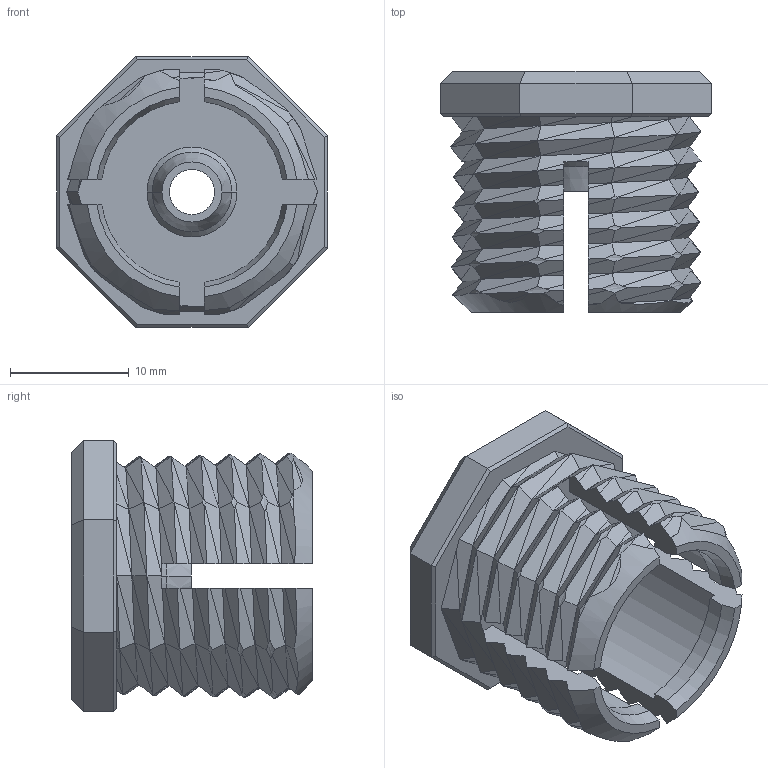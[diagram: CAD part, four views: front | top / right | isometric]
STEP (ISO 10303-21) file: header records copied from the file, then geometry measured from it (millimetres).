
FILE_DESCRIPTION(('FreeCAD Model'),'2;1');
FILE_NAME('D:/2015 new/openBCI/M3 Cad/M3K parts/M3K_Octabolt.STEP', '2015-11-05T13:37:17',('FreeCAD'),('FreeCAD'), 'Open CASCADE STEP processor 6.3','FreeCAD','Unknown');
FILE_SCHEMA(('AUTOMOTIVE_DESIGN_CC2 { 1 2 10303 214 -1 1 5 4 }'));
Length unit declared in the file: millimetre
Products named in the file (1): M3_Adjustment_Bolt7c
Bounding box: 22.86 x 20.32 x 22.86 mm (x, y, z)
Volume: 3763.7 mm3; surface area: 3100.8 mm2
Topology: 1 solids, 1 shells, 415 faces, 1029 edges, 618 vertices
Faces by surface type: plane 346, cylinder 51, cone 18
Entity records: 32626 total; most frequent: CARTESIAN_POINT 14056, DIRECTION 2958, ORIENTED_EDGE 2058, PCURVE 2058, DEFINITIONAL_REPRESENTATION 2058, LINE 2036, VECTOR 2036, EDGE_CURVE 1029
